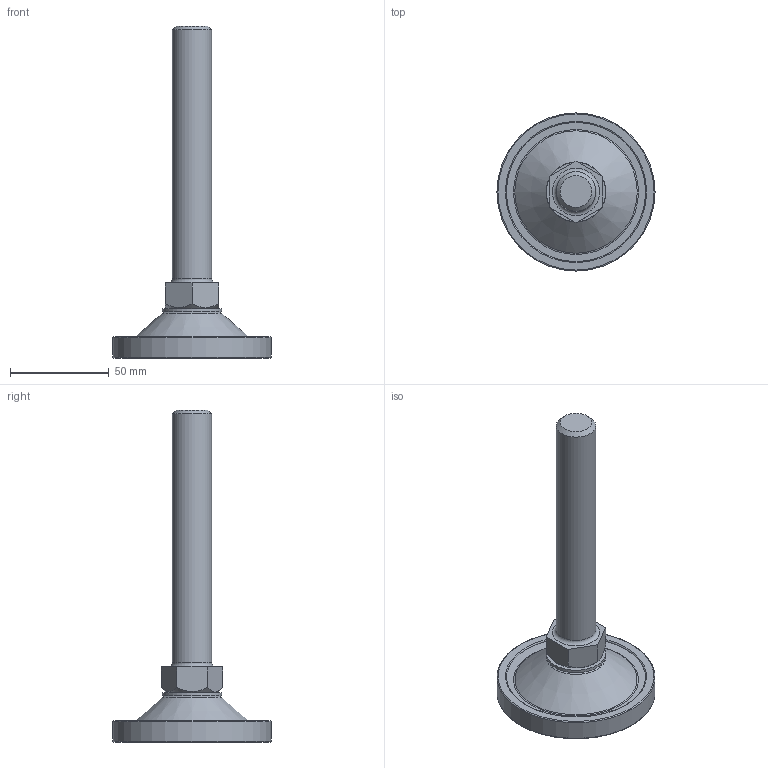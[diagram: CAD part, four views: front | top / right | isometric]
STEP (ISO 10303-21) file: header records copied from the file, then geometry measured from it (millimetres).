
FILE_DESCRIPTION(/* description */ (''),/* implementation_level */ '2;1');
FILE_NAME(/* name */ 'D:\조절자\PFR\PFR-M20-130L.stp',/* time_stamp */ '2016-03-14T15:08:25+09:00',/* author */ ('GS-DT-1-001'),/* organization */ (''),/* preprocessor_version */ 'ST-DEVELOPER v15.6',/* originating_system */ 'Autodesk Inventor LT ',/* authorisation */ '');
FILE_SCHEMA (('AUTOMOTIVE_DESIGN { 1 0 10303 214 3 1 1 }'));
Length unit declared in the file: millimetre
Products named in the file (1): PFR-M20-130L
Bounding box: 80 x 80 x 168 mm (x, y, z)
Volume: 94131.5 mm3; surface area: 37915.9 mm2
Topology: 4 solids, 4 shells, 71 faces, 132 edges, 81 vertices
Faces by surface type: plane 26, torus 24, cone 12, cylinder 9
Full cylindrical faces by diameter (mm): 5 x1, 7.153 x1, 8.2 x1, 8.8 x1, 20 x1, 30 x1, 74 x1, 74.4 x1, 80 x1
Entity records: 1509 total; most frequent: DIRECTION 282, CARTESIAN_POINT 240, ORIENTED_EDGE 162, AXIS2_PLACEMENT_3D 135, EDGE_LOOP 134, EDGE_CURVE 81, VERTEX_POINT 75, FACE_OUTER_BOUND 71
